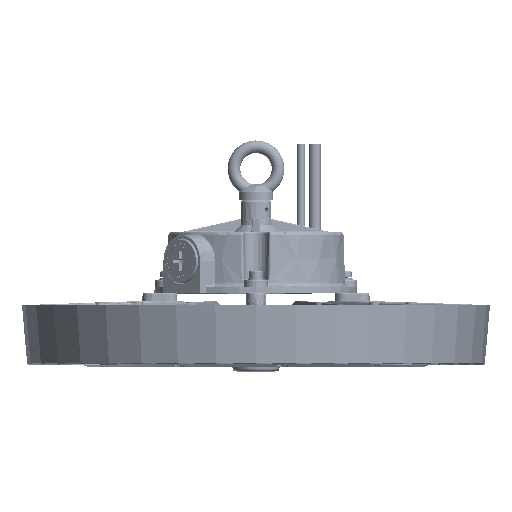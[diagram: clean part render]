
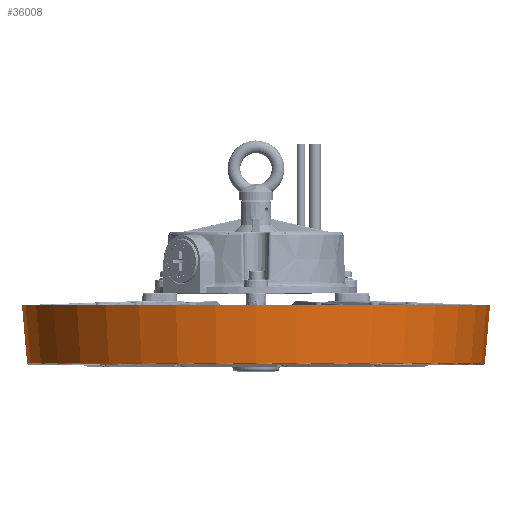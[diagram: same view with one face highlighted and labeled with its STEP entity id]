
A CAD part, top view. The second image highlights one B-rep face of the part: STEP entity #36008.
In plain terms, the highlighted conical face has half-angle 5 degrees and reference radius 147.178 mm.
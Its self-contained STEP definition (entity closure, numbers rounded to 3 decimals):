
#1029=CARTESIAN_POINT('',(0.,0.913,0.));
#1030=DIRECTION('',(0.,1.,0.));
#1031=DIRECTION('',(-1.,0.,0.));
#1032=AXIS2_PLACEMENT_3D('',#1029,#1030,#1031);
#1044=DIRECTION('',(-0.087,-0.996,0.));
#1045=VECTOR('',#1044,37.229);
#1046=CARTESIAN_POINT('',(148.8,38.,0.));
#1047=LINE('',#1046,#1045);
#1048=DIRECTION('',(0.087,-0.996,0.));
#1049=VECTOR('',#1048,37.229);
#1050=CARTESIAN_POINT('',(-148.8,38.,0.));
#1051=LINE('',#1050,#1049);
#1067=CARTESIAN_POINT('',(0.,38.,0.));
#1068=DIRECTION('',(0.,-1.,0.));
#1069=DIRECTION('',(1.,0.,0.));
#1070=AXIS2_PLACEMENT_3D('',#1067,#1068,#1069);
#31424=CARTESIAN_POINT('',(148.8,38.,0.));
#31425=CARTESIAN_POINT('',(-148.8,38.,0.));
#31426=VERTEX_POINT('',#31424);
#31427=VERTEX_POINT('',#31425);
#31431=CARTESIAN_POINT('',(-145.555,0.913,
0.));
#31432=CARTESIAN_POINT('',(145.555,0.913,
0.));
#31433=VERTEX_POINT('',#31431);
#31434=VERTEX_POINT('',#31432);
#35994=CARTESIAN_POINT('',(0.,19.456,0.));
#35995=DIRECTION('',(0.,1.,0.));
#35996=DIRECTION('',(1.,0.,0.));
#35997=AXIS2_PLACEMENT_3D('',#35994,#35995,#35996);
#35998=CONICAL_SURFACE('',#35997,147.178,5.);
#35999=ORIENTED_EDGE('',*,*,#35983,.F.);
#36001=ORIENTED_EDGE('',*,*,#36000,.F.);
#36003=ORIENTED_EDGE('',*,*,#36002,.F.);
#36005=ORIENTED_EDGE('',*,*,#36004,.T.);
#36006=EDGE_LOOP('',(#35999,#36001,#36003,#36005));
#36007=FACE_OUTER_BOUND('',#36006,.F.);
#36008=ADVANCED_FACE('',(#36007),#35998,.T.);
#1033=CIRCLE('',#1032,145.555);
#1071=CIRCLE('',#1070,148.8);
#35983=EDGE_CURVE('',#31433,#31434,#1033,.T.);
#36000=EDGE_CURVE('',#31427,#31433,#1051,.T.);
#36002=EDGE_CURVE('',#31426,#31427,#1071,.T.);
#36004=EDGE_CURVE('',#31426,#31434,#1047,.T.);
